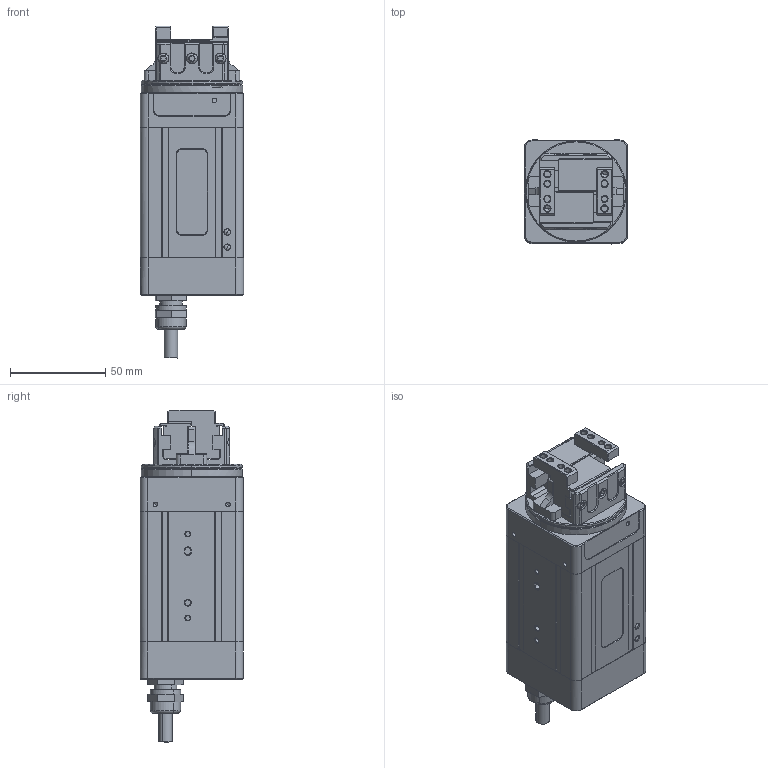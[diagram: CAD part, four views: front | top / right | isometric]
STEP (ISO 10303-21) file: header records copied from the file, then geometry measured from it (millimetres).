
FILE_DESCRIPTION(('CATIA V5 STEP Exchange'),'2;1');
FILE_NAME('C:\Users\Administrator\Desktop\夹爪整机资料\ERG-20\新建文件夹\ERG-20.stp','2022-08-11T07:04:52+00:00',('none'),('none'),'CATIA Version 5 Release 20 GA (IN-10)','CATIA V5 STEP AP203','none');
FILE_SCHEMA(('CONFIG_CONTROL_DESIGN'));
Length unit declared in the file: millimetre
Products named in the file (1): ERG20
Assembly tree (4 placements, depth 2):
  ERG20
    #58
    #9434
    #18576  x2
Bounding box: 54.05 x 54.4 x 174 mm (x, y, z)
Volume: 354311.1 mm3; surface area: 57015.3 mm2
Topology: 5 solids, 24 shells, 813 faces, 1964 edges, 1226 vertices
Faces by surface type: plane 431, cylinder 200, cone 122, torus 38, revolution 12, bspline 6, sphere 4
Entity records: 20603 total; most frequent: CARTESIAN_POINT 4490, ORIENTED_EDGE 3508, DIRECTION 2724, EDGE_CURVE 1754, AXIS2_PLACEMENT_3D 1118, VERTEX_POINT 1117, VECTOR 1049, LINE 1049
